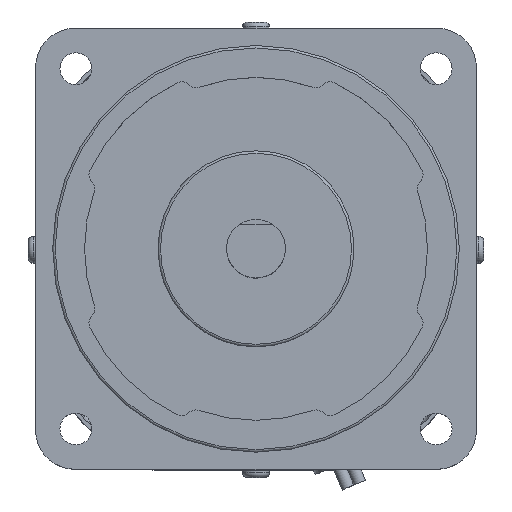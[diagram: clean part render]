
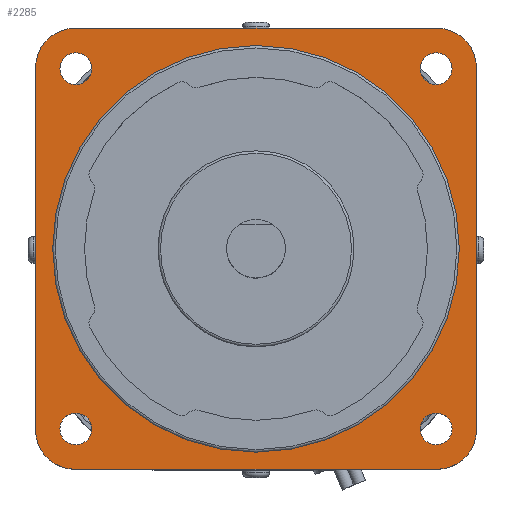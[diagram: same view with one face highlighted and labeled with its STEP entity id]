
A CAD part, top view. The second image highlights one B-rep face of the part: STEP entity #2285.
In plain terms, the highlighted planar face has unit normal (0, 0, 1).
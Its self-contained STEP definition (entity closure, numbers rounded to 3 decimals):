
#83=CARTESIAN_POINT('',(-45.0,-37.0,135.));
#84=VERTEX_POINT('',#83);
#91=CARTESIAN_POINT('',(-45.0,37.,135.));
#92=VERTEX_POINT('',#91);
#93=CARTESIAN_POINT('',(-45.0,-37.0,135.));
#94=DIRECTION('',(0.0,1.0,0.0));
#95=VECTOR('',#94,74.0);
#96=LINE('',#93,#95);
#97=EDGE_CURVE('',#84,#92,#96,.T.);
#1000=CARTESIAN_POINT('',(40.02,36.77,135.));
#1001=VERTEX_POINT('',#1000);
#1002=CARTESIAN_POINT('',(36.77,36.77,135.));
#1003=DIRECTION('',(0.0,0.0,-1.0));
#1004=DIRECTION('',(-1.0,0.0,0.0));
#1005=AXIS2_PLACEMENT_3D('',#1002,#1003,#1004);
#1006=CIRCLE('',#1005,3.25);
#1007=EDGE_CURVE('',#1001,#1001,#1006,.T.);
#1028=CARTESIAN_POINT('',(37.,45.0,135.));
#1029=VERTEX_POINT('',#1028);
#1036=CARTESIAN_POINT('',(45.0,37.0,135.));
#1037=VERTEX_POINT('',#1036);
#1038=CARTESIAN_POINT('',(37.0,37.0,135.));
#1039=DIRECTION('',(0.0,0.0,-1.0));
#1040=DIRECTION('',(-1.0,0.0,0.0));
#1041=AXIS2_PLACEMENT_3D('',#1038,#1039,#1040);
#1042=CIRCLE('',#1041,8.);
#1043=EDGE_CURVE('',#1029,#1037,#1042,.T.);
#1093=CARTESIAN_POINT('',(40.02,-36.77,135.));
#1094=VERTEX_POINT('',#1093);
#1095=CARTESIAN_POINT('',(36.77,-36.77,135.));
#1096=DIRECTION('',(0.0,0.0,-1.0));
#1097=DIRECTION('',(-1.0,0.0,0.0));
#1098=AXIS2_PLACEMENT_3D('',#1095,#1096,#1097);
#1099=CIRCLE('',#1098,3.25);
#1100=EDGE_CURVE('',#1094,#1094,#1099,.T.);
#1111=CARTESIAN_POINT('',(45.0,-37.,135.));
#1112=VERTEX_POINT('',#1111);
#1119=CARTESIAN_POINT('',(37.0,-45.0,135.));
#1120=VERTEX_POINT('',#1119);
#1121=CARTESIAN_POINT('',(37.0,-37.0,135.));
#1122=DIRECTION('',(0.0,0.0,-1.0));
#1123=DIRECTION('',(0.0,1.0,0.0));
#1124=AXIS2_PLACEMENT_3D('',#1121,#1122,#1123);
#1125=CIRCLE('',#1124,8.);
#1126=EDGE_CURVE('',#1112,#1120,#1125,.T.);
#1142=CARTESIAN_POINT('',(45.0,37.0,135.));
#1143=DIRECTION('',(0.0,-1.0,0.0));
#1144=VECTOR('',#1143,74.0);
#1145=LINE('',#1142,#1144);
#1146=EDGE_CURVE('',#1037,#1112,#1145,.T.);
#1206=CARTESIAN_POINT('',(-33.52,-36.77,135.));
#1207=VERTEX_POINT('',#1206);
#1208=CARTESIAN_POINT('',(-36.77,-36.77,135.));
#1209=DIRECTION('',(0.0,0.0,-1.0));
#1210=DIRECTION('',(-1.0,0.0,0.0));
#1211=AXIS2_PLACEMENT_3D('',#1208,#1209,#1210);
#1212=CIRCLE('',#1211,3.25);
#1213=EDGE_CURVE('',#1207,#1207,#1212,.T.);
#1232=CARTESIAN_POINT('',(-37.,-45.0,135.));
#1233=VERTEX_POINT('',#1232);
#1240=CARTESIAN_POINT('',(-37.0,-37.0,135.));
#1241=DIRECTION('',(0.0,0.0,-1.0));
#1242=DIRECTION('',(1.0,0.0,0.0));
#1243=AXIS2_PLACEMENT_3D('',#1240,#1241,#1242);
#1244=CIRCLE('',#1243,8.);
#1245=EDGE_CURVE('',#1233,#84,#1244,.T.);
#1256=CARTESIAN_POINT('',(37.0,-45.0,135.));
#1257=DIRECTION('',(-1.0,0.0,0.0));
#1258=VECTOR('',#1257,74.0);
#1259=LINE('',#1256,#1258);
#1260=EDGE_CURVE('',#1120,#1233,#1259,.T.);
#1285=CARTESIAN_POINT('',(-33.52,36.77,135.));
#1286=VERTEX_POINT('',#1285);
#1287=CARTESIAN_POINT('',(-36.77,36.77,135.));
#1288=DIRECTION('',(0.0,0.0,-1.0));
#1289=DIRECTION('',(-1.0,0.0,0.0));
#1290=AXIS2_PLACEMENT_3D('',#1287,#1288,#1289);
#1291=CIRCLE('',#1290,3.25);
#1292=EDGE_CURVE('',#1286,#1286,#1291,.T.);
#1302=CARTESIAN_POINT('',(-37.0,45.0,135.));
#1303=VERTEX_POINT('',#1302);
#1304=CARTESIAN_POINT('',(-37.0,45.0,135.));
#1305=DIRECTION('',(1.0,0.0,0.0));
#1306=VECTOR('',#1305,74.0);
#1307=LINE('',#1304,#1306);
#1308=EDGE_CURVE('',#1303,#1029,#1307,.T.);
#1347=CARTESIAN_POINT('',(-37.0,37.0,135.));
#1348=DIRECTION('',(0.0,0.0,-1.0));
#1349=DIRECTION('',(0.0,-1.0,0.0));
#1350=AXIS2_PLACEMENT_3D('',#1347,#1348,#1349);
#1351=CIRCLE('',#1350,8.);
#1352=EDGE_CURVE('',#92,#1303,#1351,.T.);
#2240=CARTESIAN_POINT('',(41.5,0.,135.));
#2241=VERTEX_POINT('',#2240);
#2242=CARTESIAN_POINT('',(0.,0.,135.));
#2243=DIRECTION('',(0.0,0.0,-1.0));
#2244=DIRECTION('',(-1.0,0.0,0.0));
#2245=AXIS2_PLACEMENT_3D('',#2242,#2243,#2244);
#2246=CIRCLE('',#2245,41.5);
#2247=EDGE_CURVE('',#2241,#2241,#2246,.T.);
#2255=CARTESIAN_POINT('',(0.,0.,135.));
#2256=DIRECTION('',(0.0,0.0,-1.0));
#2257=DIRECTION('',(-1.0,0.0,0.0));
#2258=AXIS2_PLACEMENT_3D('',#2255,#2256,#2257);
#2259=PLANE('',#2258);
#2260=ORIENTED_EDGE('',*,*,#1146,.F.);
#2261=ORIENTED_EDGE('',*,*,#1043,.F.);
#2262=ORIENTED_EDGE('',*,*,#1308,.F.);
#2263=ORIENTED_EDGE('',*,*,#1352,.F.);
#2264=ORIENTED_EDGE('',*,*,#97,.F.);
#2265=ORIENTED_EDGE('',*,*,#1245,.F.);
#2266=ORIENTED_EDGE('',*,*,#1260,.F.);
#2267=ORIENTED_EDGE('',*,*,#1126,.F.);
#2268=EDGE_LOOP('',(#2260,#2261,#2262,#2263,#2264,#2265,#2266,#2267));
#2269=FACE_OUTER_BOUND('',#2268,.T.);
#2270=ORIENTED_EDGE('',*,*,#2247,.T.);
#2271=EDGE_LOOP('',(#2270));
#2272=FACE_BOUND('',#2271,.T.);
#2273=ORIENTED_EDGE('',*,*,#1292,.T.);
#2274=EDGE_LOOP('',(#2273));
#2275=FACE_BOUND('',#2274,.T.);
#2276=ORIENTED_EDGE('',*,*,#1213,.T.);
#2277=EDGE_LOOP('',(#2276));
#2278=FACE_BOUND('',#2277,.T.);
#2279=ORIENTED_EDGE('',*,*,#1100,.T.);
#2280=EDGE_LOOP('',(#2279));
#2281=FACE_BOUND('',#2280,.T.);
#2282=ORIENTED_EDGE('',*,*,#1007,.T.);
#2283=EDGE_LOOP('',(#2282));
#2284=FACE_BOUND('',#2283,.T.);
#2285=ADVANCED_FACE('',(#2269,#2272,#2275,#2278,#2281,#2284),#2259,.F.);
